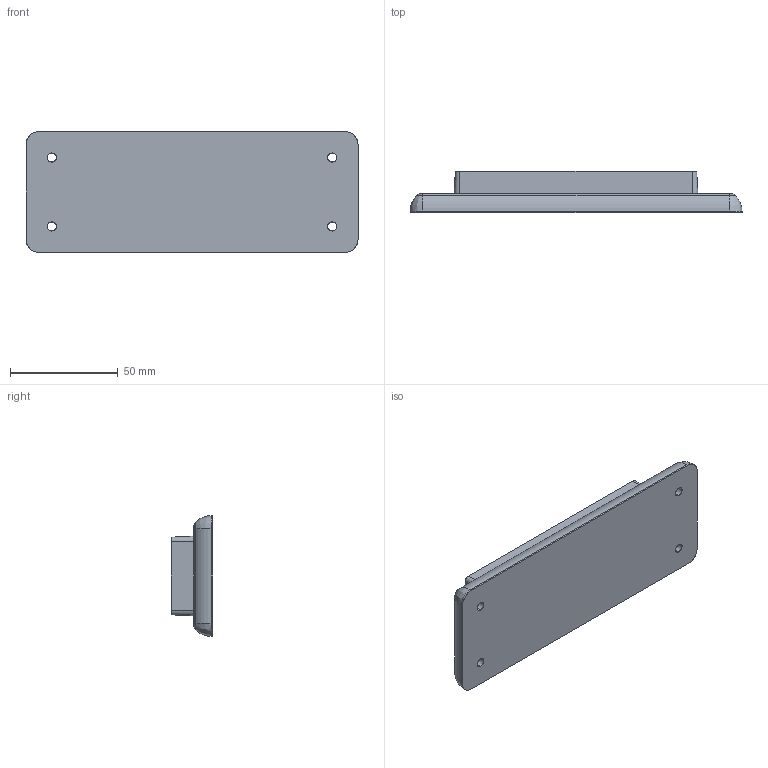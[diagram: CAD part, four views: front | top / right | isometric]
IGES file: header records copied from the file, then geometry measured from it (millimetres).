
Start section: SolidWorks IGES file using analytic representation for surfaces
Global section: file name: C:\Solidworks\omat tuotteet\Space charge models\Multigate\harting\IGES\106748.IGS; native system: SolidWorks 2016; preprocessor: SolidWorks 2016; author: joni.lehtonen; date: 160215.105136; units: millimetre
Bounding box: 154 x 19.25 x 56 mm (x, y, z)
Surface area: 22884.1 mm2 (no closed solid volume)
Topology: 0 solids, 0 shells, 43 faces, 560 edges, 560 vertices
Faces by surface type: revolution 24, bspline 19
